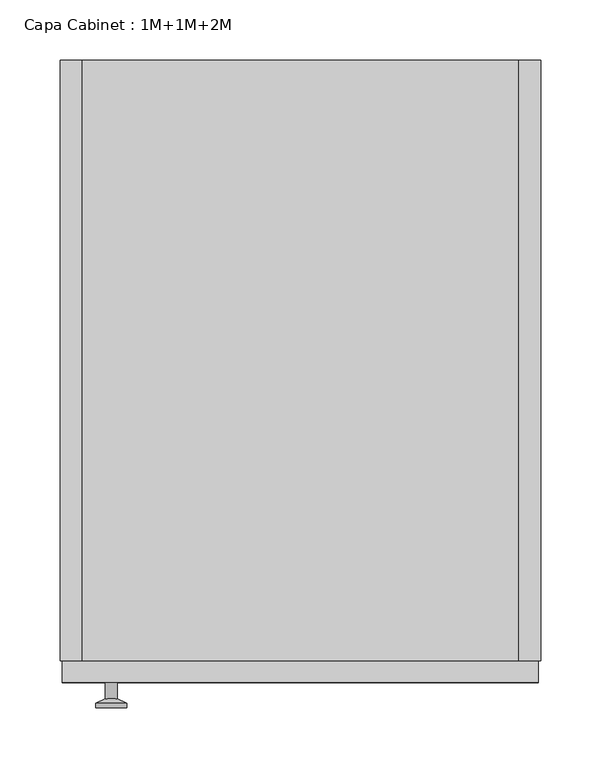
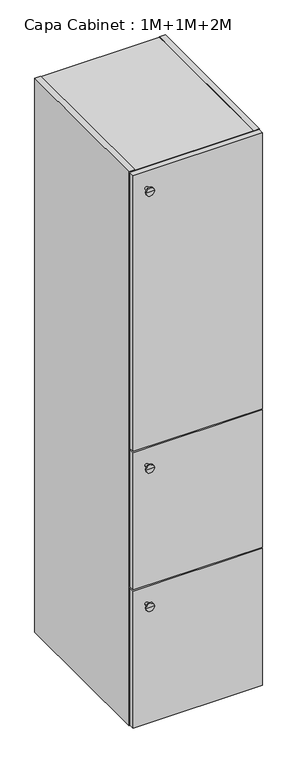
"""IFC4 building model written with IfcOpenShell, lengths in millimetres: furniture geometry, Capa Cabinet : 1M+1M+2M."""

from ifc_helpers import new_model, si_unit, frame, origin, place, context, project, spatial, polyline, circle_curve, outline, extrude, faceted_brep, source, transform, mapped, element, save
from ifc_brep_helpers import plane_surface, cylinder_surface, revolved_surface, advanced_brep


def capa_cabinet_1m_1m_2m_8f2fa9e4(model_context):
    return source(origin(), model_context, "Body", "SolidModel", [
        extrude(outline(polyline([(182.0, 0.0), (-182.0, 0.0), (-182.0, 490.0), (182.0, 490.0), (182.0, 0.0)])), frame((0.0, 0.0, 1337.0), z_axis=(0.0, 0.0, 1.0), x_axis=(1.0, 0.0, 0.0)), (0.0, 0.0, 1.0), 14.0),
        extrude(outline(polyline([(182.0, 0.0), (-182.0, 0.0), (-182.0, 490.0), (182.0, 490.0), (182.0, 0.0)])), frame((0.0, 0.0, 889.0), z_axis=(0.0, 0.0, 1.0), x_axis=(1.0, 0.0, 0.0)), (0.0, 0.0, 1.0), 14.0),
        extrude(outline(polyline([(182.0, 0.0), (-182.0, 0.0), (-182.0, 490.0), (182.0, 490.0), (182.0, 0.0)])), frame((0.0, 0.0, 441.0), z_axis=(0.0, 0.0, 1.0), x_axis=(1.0, 0.0, 0.0)), (0.0, 0.0, 1.0), 14.0),
        faceted_brep([(-182.0, 500.0, 1792.0), (-182.0, 500.0, 1791.0), (182.0, 500.0, 1791.0), (182.0, 500.0, 1792.0), (200.0, 500.0, 1792.0), (200.0, 500.0, 0.0), (182.0, 500.0, 0.0), (182.0, 500.0, 1.0), (-182.0, 500.0, 1.0), (-182.0, 500.0, 0.0), (-200.0, 500.0, 0.0), (-200.0, 500.0, 1792.0), (182.0, 490.0, 19.0), (182.0, 490.0, 1773.0), (-182.0, 490.0, 1773.0), (-182.0, 490.0, 19.0), (-182.0, 0.0, 1792.0), (-200.0, 0.0, 1792.0), (-200.0, 0.0, 0.0), (-182.0, 0.0, 0.0), (-182.0, 0.0, 1.0), (182.0, 0.0, 1.0), (182.0, 0.0, 0.0), (200.0, 0.0, 0.0), (200.0, 0.0, 1792.0), (182.0, 0.0, 1792.0), (182.0, 0.0, 1791.0), (-182.0, 0.0, 1791.0), (182.0, 0.0, 1773.0), (182.0, 0.0, 19.0), (-182.0, 0.0, 19.0), (-182.0, 0.0, 1773.0)], [[[0, 1, 2, 3, 4, 5, 6, 7, 8, 9, 10, 11]], [[12, 13, 14, 15]], [[16, 17, 18, 19, 20, 21, 22, 23, 24, 25, 26, 27], [28, 29, 30, 31]], [[17, 16, 0, 11]], [[18, 17, 11, 10]], [[23, 22, 6, 5]], [[24, 23, 5, 4]], [[19, 18, 10, 9]], [[20, 19, 9, 8]], [[21, 20, 8, 7]], [[22, 21, 7, 6]], [[25, 24, 4, 3]], [[26, 25, 3, 2]], [[27, 26, 2, 1]], [[16, 27, 1, 0]], [[29, 28, 13, 12]], [[30, 29, 12, 15]], [[31, 30, 15, 14]], [[28, 31, 14, 13]]]),
        extrude(outline(polyline([(198.0, -18.0), (-198.0, -18.0), (-198.0, 0.0), (198.0, 0.0), (198.0, -18.0)])), frame((0.0, 0.0, 898.0), z_axis=(0.0, 0.0, 1.0), x_axis=(1.0, 0.0, 0.0)), (0.0, 0.0, 1.0), 892.0),
        advanced_brep(
        [(-157.2922597, -18.0, 1736.0), (-152.2922597, -18.0, 1736.0), (-162.2922597, -18.0, 1736.0), (-170.2922597, -38.997134, 1736.0), (-144.2922597, -38.997134, 1736.0), (-157.2922597, -38.997134, 1736.0), (-170.2922597, -35.5419417, 1736.0), (-144.2922597, -35.5419417, 1736.0), (-162.2922597, -31.8114804, 1736.0), (-152.2922597, -31.8114804, 1736.0)],
        [
            (0, 1),
            (1, 2, circle_curve(frame((-157.2922597, -18.0, 1736.0), z_axis=(0.0, 1.0, 0.0), x_axis=(1.0, 0.0, 0.0)), 5.0)),
            (2, 0),
            (2, 1, circle_curve(frame((-157.2922597, -18.0, 1736.0), z_axis=(0.0, 1.0, 0.0), x_axis=(1.0, 0.0, 0.0)), 5.0)),
            (3, 4, circle_curve(frame((-157.2922597, -38.997134, 1736.0), z_axis=(0.0, -1.0, 0.0), x_axis=(1.0, 0.0, 0.0)), 13.0)),
            (4, 5),
            (5, 3),
            (4, 3, circle_curve(frame((-157.2922597, -38.997134, 1736.0), z_axis=(0.0, -1.0, 0.0), x_axis=(1.0, 0.0, 0.0)), 13.0)),
            (6, 7, circle_curve(frame((-157.2922597, -35.5419417, 1736.0), z_axis=(0.0, -1.0, 0.0), x_axis=(1.0, 0.0, 0.0)), 13.0)),
            (7, 4),
            (3, 6),
            (7, 6, circle_curve(frame((-157.2922597, -35.5419417, 1736.0), z_axis=(0.0, -1.0, 0.0), x_axis=(1.0, 0.0, 0.0)), 13.0)),
            (8, 9, circle_curve(frame((-157.2922597, -31.8114804, 1736.0), z_axis=(0.0, -1.0, 0.0), x_axis=(1.0, 0.0, 0.0)), 5.0)),
            (9, 7),
            (6, 8),
            (9, 8, circle_curve(frame((-157.2922597, -31.8114804, 1736.0), z_axis=(0.0, -1.0, 0.0), x_axis=(1.0, 0.0, 0.0)), 5.0)),
            (1, 9),
            (8, 2),
        ],
        [
            plane_surface(frame((-157.2922597, -18.0, 1736.0), z_axis=(0.0, 1.0, 0.0), x_axis=(1.0, 0.0, 0.0))),
            plane_surface(frame((-157.2922597, -38.997134, 1736.0), z_axis=(0.0, -1.0, 0.0), x_axis=(1.0, 0.0, 0.0))),
            cylinder_surface(frame((-157.2922597, -38.997134, 1736.0), z_axis=(0.0, 1.0, 0.0), x_axis=(1.0, 0.0, 0.0)), 13.0),
            revolved_surface(polyline([(-144.2922597, -35.5419417, 1736.0), (-152.2922597, -31.8114804, 1736.0)]), (-157.2922597, -38.997134, 1736.0), (0.0, 1.0, 0.0)),
            cylinder_surface(frame((-157.2922597, -38.997134, 1736.0), z_axis=(0.0, 1.0, 0.0), x_axis=(1.0, 0.0, 0.0)), 5.0),
        ],
        [
            (0, [[1, 2, 3]]),
            (0, [[-3, 4, -1]]),
            (1, [[5, 6, 7]]),
            (1, [[8, -7, -6]]),
            (2, [[9, 10, -5, 11]]),
            (2, [[12, -11, -8, -10]]),
            (3, [[13, 14, -9, 15]]),
            (3, [[16, -15, -12, -14]]),
            (4, [[-2, 17, -13, 18]]),
            (4, [[-4, -18, -16, -17]]),
        ],
    ),
        extrude(outline(polyline([(198.0, -18.0), (-198.0, -18.0), (-198.0, 0.0), (198.0, 0.0), (198.0, -18.0)])), frame((0.0, 0.0, 450.0), z_axis=(0.0, 0.0, 1.0), x_axis=(1.0, 0.0, 0.0)), (0.0, 0.0, 1.0), 444.0),
        advanced_brep(
        [(-157.2922597, -18.0, 840.0), (-152.2922597, -18.0, 840.0), (-162.2922597, -18.0, 840.0), (-170.2922597, -38.997134, 840.0), (-144.2922597, -38.997134, 840.0), (-157.2922597, -38.997134, 840.0), (-170.2922597, -35.5419417, 840.0), (-144.2922597, -35.5419417, 840.0), (-162.2922597, -31.8114804, 840.0), (-152.2922597, -31.8114804, 840.0)],
        [
            (0, 1),
            (1, 2, circle_curve(frame((-157.2922597, -18.0, 840.0), z_axis=(0.0, 1.0, 0.0), x_axis=(1.0, 0.0, 0.0)), 5.0)),
            (2, 0),
            (2, 1, circle_curve(frame((-157.2922597, -18.0, 840.0), z_axis=(0.0, 1.0, 0.0), x_axis=(1.0, 0.0, 0.0)), 5.0)),
            (3, 4, circle_curve(frame((-157.2922597, -38.997134, 840.0), z_axis=(0.0, -1.0, 0.0), x_axis=(1.0, 0.0, 0.0)), 13.0)),
            (4, 5),
            (5, 3),
            (4, 3, circle_curve(frame((-157.2922597, -38.997134, 840.0), z_axis=(0.0, -1.0, 0.0), x_axis=(1.0, 0.0, 0.0)), 13.0)),
            (6, 7, circle_curve(frame((-157.2922597, -35.5419417, 840.0), z_axis=(0.0, -1.0, 0.0), x_axis=(1.0, 0.0, 0.0)), 13.0)),
            (7, 4),
            (3, 6),
            (7, 6, circle_curve(frame((-157.2922597, -35.5419417, 840.0), z_axis=(0.0, -1.0, 0.0), x_axis=(1.0, 0.0, 0.0)), 13.0)),
            (8, 9, circle_curve(frame((-157.2922597, -31.8114804, 840.0), z_axis=(0.0, -1.0, 0.0), x_axis=(1.0, 0.0, 0.0)), 5.0)),
            (9, 7),
            (6, 8),
            (9, 8, circle_curve(frame((-157.2922597, -31.8114804, 840.0), z_axis=(0.0, -1.0, 0.0), x_axis=(1.0, 0.0, 0.0)), 5.0)),
            (1, 9),
            (8, 2),
        ],
        [
            plane_surface(frame((-157.2922597, -18.0, 840.0), z_axis=(0.0, 1.0, 0.0), x_axis=(1.0, 0.0, 0.0))),
            plane_surface(frame((-157.2922597, -38.997134, 840.0), z_axis=(0.0, -1.0, 0.0), x_axis=(1.0, 0.0, 0.0))),
            cylinder_surface(frame((-157.2922597, -38.997134, 840.0), z_axis=(0.0, 1.0, 0.0), x_axis=(1.0, 0.0, 0.0)), 13.0),
            revolved_surface(polyline([(-144.2922597, -35.5419417, 840.0), (-152.2922597, -31.8114804, 840.0)]), (-157.2922597, -38.997134, 840.0), (0.0, 1.0, 0.0)),
            cylinder_surface(frame((-157.2922597, -38.997134, 840.0), z_axis=(0.0, 1.0, 0.0), x_axis=(1.0, 0.0, 0.0)), 5.0),
        ],
        [
            (0, [[1, 2, 3]]),
            (0, [[-3, 4, -1]]),
            (1, [[5, 6, 7]]),
            (1, [[8, -7, -6]]),
            (2, [[9, 10, -5, 11]]),
            (2, [[12, -11, -8, -10]]),
            (3, [[13, 14, -9, 15]]),
            (3, [[16, -15, -12, -14]]),
            (4, [[-2, 17, -13, 18]]),
            (4, [[-4, -18, -16, -17]]),
        ],
    ),
        extrude(outline(polyline([(198.0, -18.0), (-198.0, -18.0), (-198.0, 0.0), (198.0, 0.0), (198.0, -18.0)])), frame((0.0, 0.0, 2.0), z_axis=(0.0, 0.0, 1.0), x_axis=(1.0, 0.0, 0.0)), (0.0, 0.0, 1.0), 444.0),
        advanced_brep(
        [(-157.2922597, -18.0, 392.0), (-152.2922597, -18.0, 392.0), (-162.2922597, -18.0, 392.0), (-170.2922597, -38.997134, 392.0), (-144.2922597, -38.997134, 392.0), (-157.2922597, -38.997134, 392.0), (-170.2922597, -35.5419417, 392.0), (-144.2922597, -35.5419417, 392.0), (-162.2922597, -31.8114804, 392.0), (-152.2922597, -31.8114804, 392.0)],
        [
            (0, 1),
            (1, 2, circle_curve(frame((-157.2922597, -18.0, 392.0), z_axis=(0.0, 1.0, 0.0), x_axis=(1.0, 0.0, 0.0)), 5.0)),
            (2, 0),
            (2, 1, circle_curve(frame((-157.2922597, -18.0, 392.0), z_axis=(0.0, 1.0, 0.0), x_axis=(1.0, 0.0, 0.0)), 5.0)),
            (3, 4, circle_curve(frame((-157.2922597, -38.997134, 392.0), z_axis=(0.0, -1.0, 0.0), x_axis=(1.0, 0.0, 0.0)), 13.0)),
            (4, 5),
            (5, 3),
            (4, 3, circle_curve(frame((-157.2922597, -38.997134, 392.0), z_axis=(0.0, -1.0, 0.0), x_axis=(1.0, 0.0, 0.0)), 13.0)),
            (6, 7, circle_curve(frame((-157.2922597, -35.5419417, 392.0), z_axis=(0.0, -1.0, 0.0), x_axis=(1.0, 0.0, 0.0)), 13.0)),
            (7, 4),
            (3, 6),
            (7, 6, circle_curve(frame((-157.2922597, -35.5419417, 392.0), z_axis=(0.0, -1.0, 0.0), x_axis=(1.0, 0.0, 0.0)), 13.0)),
            (8, 9, circle_curve(frame((-157.2922597, -31.8114804, 392.0), z_axis=(0.0, -1.0, 0.0), x_axis=(1.0, 0.0, 0.0)), 5.0)),
            (9, 7),
            (6, 8),
            (9, 8, circle_curve(frame((-157.2922597, -31.8114804, 392.0), z_axis=(0.0, -1.0, 0.0), x_axis=(1.0, 0.0, 0.0)), 5.0)),
            (1, 9),
            (8, 2),
        ],
        [
            plane_surface(frame((-157.2922597, -18.0, 392.0), z_axis=(0.0, 1.0, 0.0), x_axis=(1.0, 0.0, 0.0))),
            plane_surface(frame((-157.2922597, -38.997134, 392.0), z_axis=(0.0, -1.0, 0.0), x_axis=(1.0, 0.0, 0.0))),
            cylinder_surface(frame((-157.2922597, -38.997134, 392.0), z_axis=(0.0, 1.0, 0.0), x_axis=(1.0, 0.0, 0.0)), 13.0),
            revolved_surface(polyline([(-144.2922597, -35.5419417, 392.0), (-152.2922597, -31.8114804, 392.0)]), (-157.2922597, -38.997134, 392.0), (0.0, 1.0, 0.0)),
            cylinder_surface(frame((-157.2922597, -38.997134, 392.0), z_axis=(0.0, 1.0, 0.0), x_axis=(1.0, 0.0, 0.0)), 5.0),
        ],
        [
            (0, [[1, 2, 3]]),
            (0, [[-3, 4, -1]]),
            (1, [[5, 6, 7]]),
            (1, [[8, -7, -6]]),
            (2, [[9, 10, -5, 11]]),
            (2, [[12, -11, -8, -10]]),
            (3, [[13, 14, -9, 15]]),
            (3, [[16, -15, -12, -14]]),
            (4, [[-2, 17, -13, 18]]),
            (4, [[-4, -18, -16, -17]]),
        ],
    ),
    ])


if __name__ == "__main__":
    model = new_model("IFC4")
    model_context = context("Model", 3, world=origin())
    ifc_project = project(units=[si_unit("LENGTHUNIT", "METRE", prefix="MILLI")], contexts=[model_context])
    site = spatial("IfcSite", under=ifc_project)
    building = spatial("IfcBuilding", under=site)
    placement = place(None, origin())
    capa_cabinet_1m_1m_2m_shape = capa_cabinet_1m_1m_2m_8f2fa9e4(model_context)
    element("IfcFurniture", 1, ObjectType="Capa Cabinet : 1M+1M+2M", at=placement, inside=building, context=model_context, shape_type="MappedRepresentation", body=[
        mapped(capa_cabinet_1m_1m_2m_shape, transform((0.0, 0.0, 0.0), x_axis=(1.0, 0.0, 0.0), y_axis=(0.0, 1.0, 0.0), z_axis=(0.0, 0.0, 1.0))),
    ])
    save(model, "model.ifc")
